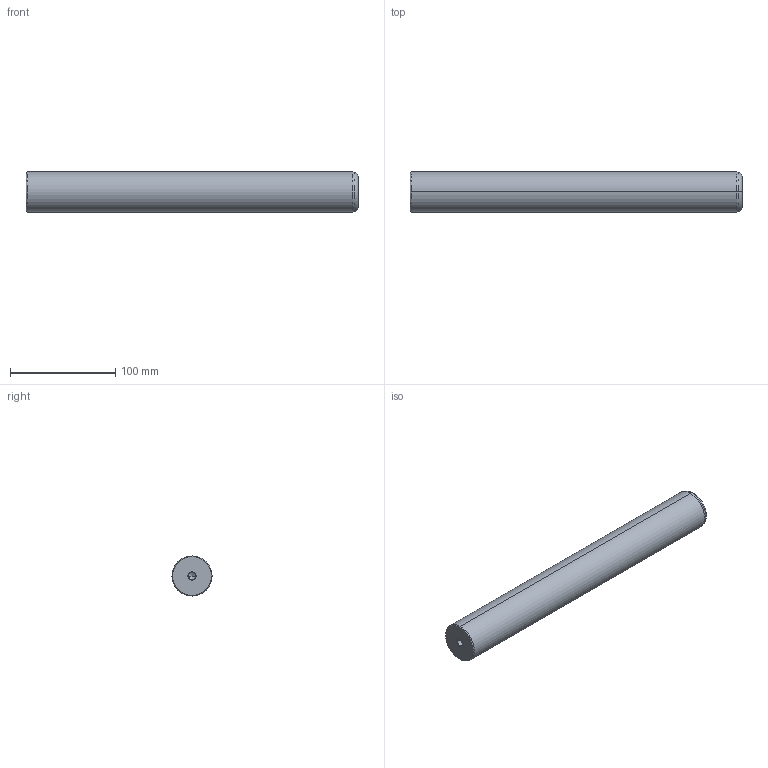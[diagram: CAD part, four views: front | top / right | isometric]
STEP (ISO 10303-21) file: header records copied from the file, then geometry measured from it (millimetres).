
FILE_DESCRIPTION(('CATIA V5 STEP Exchange'),'2;1');
FILE_NAME('C:\Users\Utente\Desktop\IO LAVORO\3D X SITO CF\X SITO\720\720-38x315.stp','2021-01-01T12:03:10+00:00',('none'),('none'),'CATIA Version 5 Release 20 GA (IN-10)','CATIA V5 STEP AP203','none');
FILE_SCHEMA(('CONFIG_CONTROL_DESIGN'));
Length unit declared in the file: millimetre
Products named in the file (1): 720-38x315
Bounding box: 315 x 38 x 38 mm (x, y, z)
Volume: 354906.6 mm3; surface area: 40559.6 mm2
Topology: 1 solids, 1 shells, 22 faces, 62 edges, 40 vertices
Faces by surface type: cone 12, cylinder 6, plane 2, torus 2
Entity records: 806 total; most frequent: CARTESIAN_POINT 229, ORIENTED_EDGE 116, DIRECTION 93, EDGE_CURVE 58, AXIS2_PLACEMENT_3D 54, VERTEX_POINT 40, CIRCLE 31, EDGE_LOOP 24
